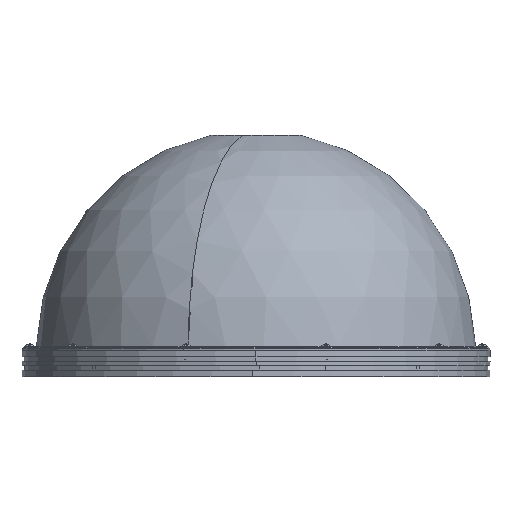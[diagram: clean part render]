
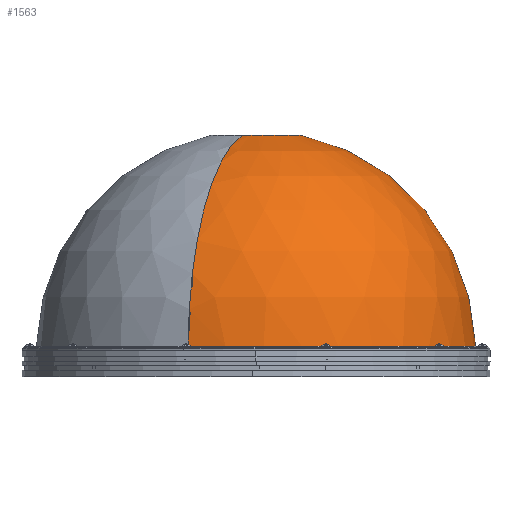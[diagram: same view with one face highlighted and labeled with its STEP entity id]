
A CAD part, left-side view. The second image highlights one B-rep face of the part: STEP entity #1563.
In plain terms, the highlighted spherical face has radius 101 mm.
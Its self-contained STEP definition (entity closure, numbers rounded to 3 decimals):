
#1563=ADVANCED_FACE('',(#3268),#3269,.T.);
#3268=FACE_OUTER_BOUND('',#5434,.T.);
#3269=SPHERICAL_SURFACE('',#5435,101.0);
#5434=EDGE_LOOP('',(#9637,#9638,#9639,#9640,#9641));
#5435=AXIS2_PLACEMENT_3D('',#9642,#9643,#9644);
#9637=ORIENTED_EDGE('',*,*,#13686,.T.);
#9638=ORIENTED_EDGE('',*,*,#13703,.T.);
#9639=ORIENTED_EDGE('',*,*,#13687,.T.);
#9640=ORIENTED_EDGE('',*,*,#13719,.F.);
#9641=ORIENTED_EDGE('',*,*,#13720,.F.);
#9642=CARTESIAN_POINT('',(0.,0.,0.));
#9643=DIRECTION('',(0.,0.,1.0));
#9644=DIRECTION('',(1.0,0.,0.));
#13686=EDGE_CURVE('',#16848,#16868,#16869,.T.);
#13687=EDGE_CURVE('',#16870,#16854,#16871,.T.);
#13703=EDGE_CURVE('',#16868,#16870,#16896,.T.);
#13719=EDGE_CURVE('',#16914,#16854,#16915,.T.);
#13720=EDGE_CURVE('',#16848,#16914,#16916,.T.);
#16848=VERTEX_POINT('',#23387);
#16854=VERTEX_POINT('',#23394);
#16868=VERTEX_POINT('',#23411);
#16869=CIRCLE('',#23412,101.0);
#16870=VERTEX_POINT('',#23413);
#16871=CIRCLE('',#23414,101.0);
#16896=CIRCLE('',#23441,100.98);
#16914=VERTEX_POINT('',#23461);
#16915=CIRCLE('',#23462,20.49);
#16916=CIRCLE('',#23463,20.49);
#23387=CARTESIAN_POINT('',(-20.49,0.,98.9));
#23394=CARTESIAN_POINT('',(20.49,0.0,98.9));
#23411=CARTESIAN_POINT('',(-100.98,0.,1.99));
#23412=AXIS2_PLACEMENT_3D('',#26334,#26335,#26336);
#23413=CARTESIAN_POINT('',(100.98,0.0,1.99));
#23414=AXIS2_PLACEMENT_3D('',#26337,#26338,#26339);
#23441=AXIS2_PLACEMENT_3D('',#26372,#26373,#26374);
#23461=CARTESIAN_POINT('',(0.,-20.49,98.9));
#23462=AXIS2_PLACEMENT_3D('',#26398,#26399,#26400);
#23463=AXIS2_PLACEMENT_3D('',#26401,#26402,#26403);
#26334=CARTESIAN_POINT('',(0.,0.,0.));
#26335=DIRECTION('',(0.,-1.0,0.));
#26336=DIRECTION('',(0.0,0.,1.0));
#26337=CARTESIAN_POINT('',(0.,0.0,0.));
#26338=DIRECTION('',(0.0,-1.0,0.0));
#26339=DIRECTION('',(1.,0.0,0.02));
#26372=CARTESIAN_POINT('',(0.,0.,1.99));
#26373=DIRECTION('',(0.,0.,1.0));
#26374=DIRECTION('',(1.0,0.,0.));
#26398=CARTESIAN_POINT('',(0.,0.,98.9));
#26399=DIRECTION('',(0.,0.,1.0));
#26400=DIRECTION('',(0.,-1.0,0.));
#26401=CARTESIAN_POINT('',(0.,0.,98.9));
#26402=DIRECTION('',(0.,0.,1.0));
#26403=DIRECTION('',(1.0,0.,0.));
